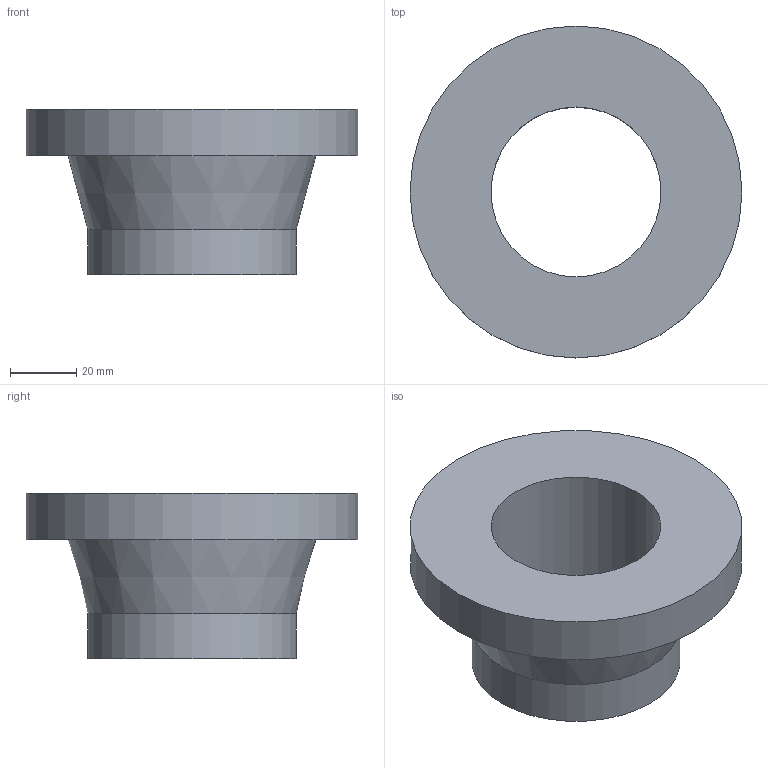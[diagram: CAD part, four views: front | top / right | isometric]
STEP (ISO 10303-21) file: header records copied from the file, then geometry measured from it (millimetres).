
FILE_DESCRIPTION (( 'STEP AP203' ), '1' );
FILE_NAME ('581135020.STEP', '2015-12-04T19:55:17', ( '' ), ( '' ), 'SwSTEP 2.0', 'SolidWorks 2015', '' );
FILE_SCHEMA (( 'CONFIG_CONTROL_DESIGN' ));
Length unit declared in the file: inch
Products named in the file (1): 581135020
Bounding box: 100.4 x 100.4 x 50 mm (x, y, z)
Volume: 133448.3 mm3; surface area: 30591.4 mm2
Topology: 1 solids, 1 shells, 7 faces, 11 edges, 7 vertices
Faces by surface type: cylinder 3, plane 3, cone 1
Full cylindrical faces by diameter (mm): 51.4 x1, 63 x1, 100.4 x1
Entity records: 227 total; most frequent: DIRECTION 30, CARTESIAN_POINT 22, AXIS2_PLACEMENT_3D 15, EDGE_LOOP 14, ORIENTED_EDGE 14, FACE_OUTER_BOUND 10, PERSON_AND_ORGANIZATION 8, CIRCLE 7
